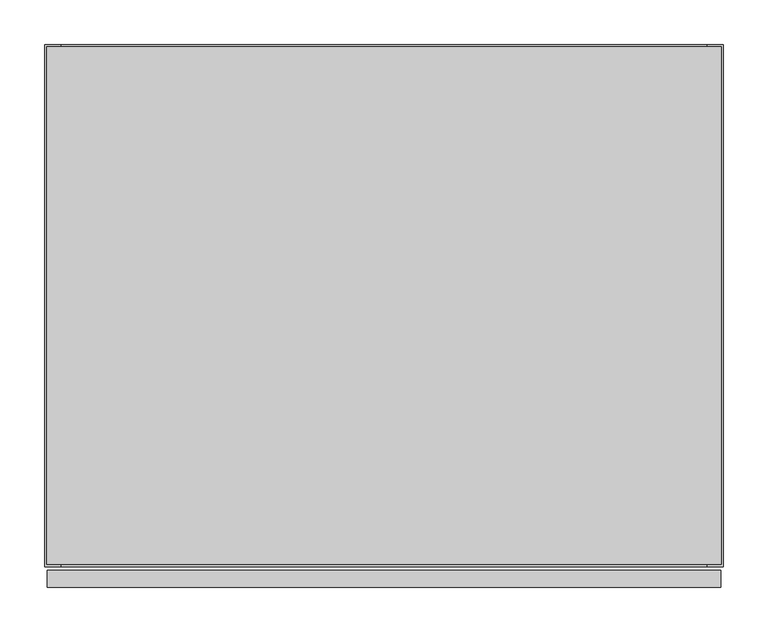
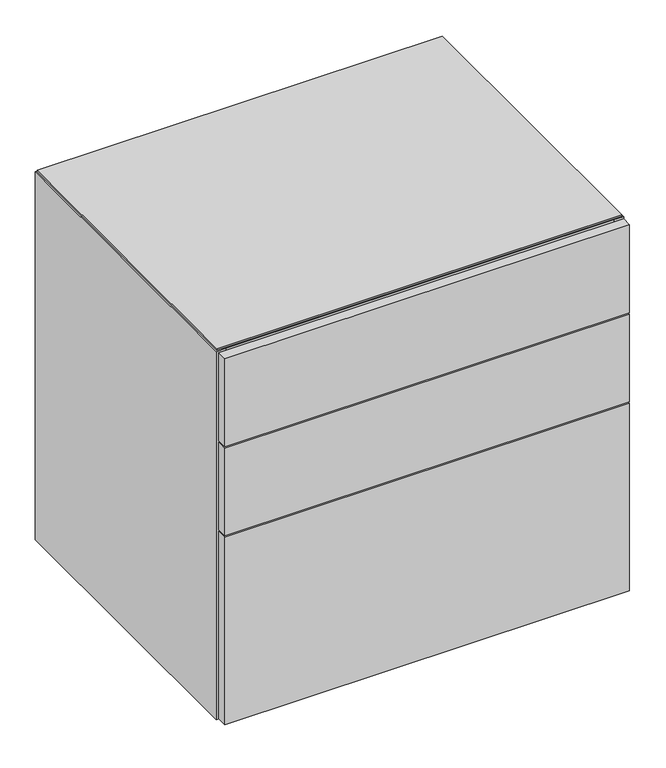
"""IFC4 building model written with IfcOpenShell, lengths in millimetres: furniture geometry, Geiger_GeigerOneCasegoods_LowStorage2Box1File : TFL 30Wx24Dx28.75H."""

from ifc_helpers import new_model, si_unit, point, frame, origin, place, context, project, spatial, polyline, circle_curve, ellipse_curve, trimmed, outline, extrude, source, transform, mapped, element, save
from ifc_brep_helpers import plane_surface, cylinder_surface, revolved_surface, advanced_brep


def furniture_9b273c3e(model_context):
    return source(origin(), model_context, "Body", "SolidModel", [
        extrude(outline(polyline([(19.0, -19.5), (743.0, -19.5), (743.0, -586.4), (19.0, -586.4), (19.0, -19.5)])), frame((0.0, 0.0, 73.2), z_axis=(0.0, 0.0, 1.0), x_axis=(1.0, 0.0, 0.0)), (0.0, 0.0, 1.0), 19.5072),
        extrude(outline(polyline([(3.0, -590.4), (759.0, -590.4), (759.0, -609.6), (3.0, -609.6), (3.0, -590.4)])), frame((0.0, 0.0, 15.7), z_axis=(0.0, 0.0, 1.0), x_axis=(1.0, 0.0, 0.0)), (0.0, 0.0, 1.0), 370.0),
        extrude(outline(polyline([(3.0, -590.4), (759.0, -590.4), (759.0, -609.6), (3.0, -609.6), (3.0, -590.4)])), frame((0.0, 0.0, 388.7), z_axis=(0.0, 0.0, 1.0), x_axis=(1.0, 0.0, 0.0)), (0.0, 0.0, 1.0), 173.0),
        extrude(outline(polyline([(3.0, -590.4), (759.0, -590.4), (759.0, -609.6), (3.0, -609.6), (3.0, -590.4)])), frame((0.0, 0.0, 564.7), z_axis=(0.0, 0.0, 1.0), x_axis=(1.0, 0.0, 0.0)), (0.0, 0.0, 1.0), 174.0),
        extrude(outline(polyline([(19.0, -19.5), (743.0, -19.5), (743.0, -566.9), (19.0, -566.9), (19.0, -19.5)])), frame((0.0, 0.0, 12.7), z_axis=(0.0, 0.0, 1.0), x_axis=(1.0, 0.0, 0.0)), (0.0, 0.0, 1.0), 19.5),
        extrude(outline(polyline([(759.46, -2.54), (759.46, -583.86), (2.54, -583.86), (2.54, -2.54), (759.46, -2.54)])), frame((0.0, 0.0, 739.5), z_axis=(0.0, 0.0, 1.0), x_axis=(1.0, 0.0, 0.0)), (0.0, 0.0, 1.0), 3.2766),
        extrude(outline(polyline([(19.0, -95.7), (743.0, -95.7), (743.0, -586.4), (19.0, -586.4), (19.0, -95.7)])), frame((0.0, 0.0, 720.0), z_axis=(0.0, 0.0, 1.0), x_axis=(1.0, 0.0, 0.0)), (0.0, 0.0, 1.0), 19.5),
        extrude(outline(polyline([(743.0, -19.5), (19.0, -19.5), (19.0, 0.0), (743.0, 0.0), (743.0, -19.5)])), frame((0.0, 0.0, 12.7), z_axis=(0.0, 0.0, 1.0), x_axis=(1.0, 0.0, 0.0)), (0.0, 0.0, 1.0), 726.8),
        extrude(outline(polyline([(19.0, -566.9), (743.0, -566.9), (743.0, -586.4), (19.0, -586.4), (19.0, -566.9)])), frame((0.0, 0.0, 12.7), z_axis=(0.0, 0.0, 1.0), x_axis=(1.0, 0.0, 0.0)), (0.0, 0.0, 1.0), 60.5),
        extrude(outline(polyline([(19.0, -586.4), (0.0, -586.4), (0.0, -0.5), (19.0, -0.5), (19.0, -586.4)])), frame((0.0, 0.0, 12.7), z_axis=(0.0, 0.0, 1.0), x_axis=(1.0, 0.0, 0.0)), (0.0, 0.0, 1.0), 726.8),
        extrude(outline(polyline([(762.0, -586.4), (743.0, -586.4), (743.0, -0.5), (762.0, -0.5), (762.0, -586.4)])), frame((0.0, 0.0, 12.7), z_axis=(0.0, 0.0, 1.0), x_axis=(1.0, 0.0, 0.0)), (0.0, 0.0, 1.0), 726.8),
        advanced_brep(
        [(94.0575663, -528.9165105, 0.0), (71.9424337, -528.9165105, 0.0), (83.0, -528.9165105, 0.0), (94.0575663, -528.9165105, 9.5), (71.9424337, -528.9165105, 9.5), (87.066455, -528.9165105, 9.5), (78.933545, -528.9165105, 9.5), (87.066455, -528.9165105, 12.7), (78.933545, -528.9165105, 12.7), (83.0, -528.9165105, 12.7)],
        [
            (0, 1, circle_curve(frame((83.0, -528.9165105, 0.0), z_axis=(0.0, 0.0, -1.0), x_axis=(-1.0, 0.0, 0.0)), 11.0575663)),
            (1, 2),
            (2, 0),
            (1, 0, circle_curve(frame((83.0, -528.9165105, 0.0), z_axis=(0.0, 0.0, -1.0), x_axis=(-1.0, 0.0, 0.0)), 11.0575663)),
            (0, 3, circle_curve(frame((94.0575663, -528.9165105, 4.75), z_axis=(0.0, -1.0, 0.0), x_axis=(1.0, 0.0, 0.0)), 4.75)),
            (3, 4, circle_curve(frame((83.0, -528.9165105, 9.5), z_axis=(0.0, 0.0, -1.0), x_axis=(-1.0, 0.0, 0.0)), 11.0575663)),
            (4, 1, circle_curve(frame((71.9424337, -528.9165105, 4.75), z_axis=(0.0, -1.0, 0.0), x_axis=(-1.0, 0.0, 0.0)), 4.75)),
            (4, 3, circle_curve(frame((83.0, -528.9165105, 9.5), z_axis=(0.0, 0.0, -1.0), x_axis=(-1.0, 0.0, 0.0)), 11.0575663)),
            (3, 5),
            (5, 6, circle_curve(frame((83.0, -528.9165105, 9.5), z_axis=(0.0, 0.0, -1.0), x_axis=(-1.0, 0.0, 0.0)), 4.066455)),
            (6, 4),
            (6, 5, circle_curve(frame((83.0, -528.9165105, 9.5), z_axis=(0.0, 0.0, -1.0), x_axis=(-1.0, 0.0, 0.0)), 4.066455)),
            (5, 7),
            (7, 8, circle_curve(frame((83.0, -528.9165105, 12.7), z_axis=(0.0, 0.0, -1.0), x_axis=(-1.0, 0.0, 0.0)), 4.066455)),
            (8, 6),
            (8, 7, circle_curve(frame((83.0, -528.9165105, 12.7), z_axis=(0.0, 0.0, -1.0), x_axis=(-1.0, 0.0, 0.0)), 4.066455)),
            (7, 9),
            (9, 8),
        ],
        [
            plane_surface(frame((83.0, -528.9165105, 0.0), z_axis=(0.0, 0.0, -1.0), x_axis=(-1.0, 0.0, 0.0))),
            revolved_surface(trimmed(ellipse_curve(frame((71.9424337, -528.9165105, 4.75), z_axis=(0.0, 1.0, 0.0), x_axis=(-1.0, 0.0, 0.0)), 4.75, 4.75), [point((71.9424337, -528.9165105, 0.0))], [point((71.9424337, -528.9165105, 9.5))], True, "CARTESIAN"), (83.0, -528.9165105, 0.0), (0.0, 0.0, 1.0)),
            plane_surface(frame((83.0, -528.9165105, 9.5), z_axis=(0.0, 0.0, 1.0), x_axis=(-1.0, 0.0, 0.0))),
            cylinder_surface(frame((83.0, -528.9165105, 0.0), z_axis=(0.0, 0.0, 1.0), x_axis=(-1.0, 0.0, 0.0)), 4.066455),
            plane_surface(frame((83.0, -528.9165105, 12.7), z_axis=(0.0, 0.0, 1.0), x_axis=(-1.0, 0.0, 0.0))),
        ],
        [
            (0, [[1, 2, 3]]),
            (0, [[-2, 4, -3]]),
            (1, [[-1, 5, 6, 7]]),
            (1, [[-4, -7, 8, -5]]),
            (2, [[-6, 9, 10, 11]]),
            (2, [[-8, -11, 12, -9]]),
            (3, [[-10, 13, 14, 15]]),
            (3, [[-12, -15, 16, -13]]),
            (4, [[-14, 17, 18]]),
            (4, [[-16, -18, -17]]),
        ],
    ),
        advanced_brep(
        [(94.0575663, -127.0, 0.0), (71.9424337, -127.0, 0.0), (83.0, -127.0, 0.0), (94.0575663, -127.0, 9.5), (71.9424337, -127.0, 9.5), (87.066455, -127.0, 9.5), (78.933545, -127.0, 9.5), (87.066455, -127.0, 12.7), (78.933545, -127.0, 12.7), (83.0, -127.0, 12.7)],
        [
            (0, 1, circle_curve(frame((83.0, -127.0, 0.0), z_axis=(0.0, 0.0, -1.0), x_axis=(-1.0, 0.0, 0.0)), 11.0575663)),
            (1, 2),
            (2, 0),
            (1, 0, circle_curve(frame((83.0, -127.0, 0.0), z_axis=(0.0, 0.0, -1.0), x_axis=(-1.0, 0.0, 0.0)), 11.0575663)),
            (0, 3, circle_curve(frame((94.0575663, -127.0, 4.75), z_axis=(0.0, -1.0, 0.0), x_axis=(1.0, 0.0, 0.0)), 4.75)),
            (3, 4, circle_curve(frame((83.0, -127.0, 9.5), z_axis=(0.0, 0.0, -1.0), x_axis=(-1.0, 0.0, 0.0)), 11.0575663)),
            (4, 1, circle_curve(frame((71.9424337, -127.0, 4.75), z_axis=(0.0, -1.0, 0.0), x_axis=(-1.0, 0.0, 0.0)), 4.75)),
            (4, 3, circle_curve(frame((83.0, -127.0, 9.5), z_axis=(0.0, 0.0, -1.0), x_axis=(-1.0, 0.0, 0.0)), 11.0575663)),
            (3, 5),
            (5, 6, circle_curve(frame((83.0, -127.0, 9.5), z_axis=(0.0, 0.0, -1.0), x_axis=(-1.0, 0.0, 0.0)), 4.066455)),
            (6, 4),
            (6, 5, circle_curve(frame((83.0, -127.0, 9.5), z_axis=(0.0, 0.0, -1.0), x_axis=(-1.0, 0.0, 0.0)), 4.066455)),
            (5, 7),
            (7, 8, circle_curve(frame((83.0, -127.0, 12.7), z_axis=(0.0, 0.0, -1.0), x_axis=(-1.0, 0.0, 0.0)), 4.066455)),
            (8, 6),
            (8, 7, circle_curve(frame((83.0, -127.0, 12.7), z_axis=(0.0, 0.0, -1.0), x_axis=(-1.0, 0.0, 0.0)), 4.066455)),
            (7, 9),
            (9, 8),
        ],
        [
            plane_surface(frame((83.0, -127.0, 0.0), z_axis=(0.0, 0.0, -1.0), x_axis=(-1.0, 0.0, 0.0))),
            revolved_surface(trimmed(ellipse_curve(frame((71.9424337, -127.0, 4.75), z_axis=(0.0, 1.0, 0.0), x_axis=(-1.0, 0.0, 0.0)), 4.75, 4.75), [point((71.9424337, -127.0, 0.0))], [point((71.9424337, -127.0, 9.5))], True, "CARTESIAN"), (83.0, -127.0, 0.0), (0.0, 0.0, 1.0)),
            plane_surface(frame((83.0, -127.0, 9.5), z_axis=(0.0, 0.0, 1.0), x_axis=(-1.0, 0.0, 0.0))),
            cylinder_surface(frame((83.0, -127.0, 0.0), z_axis=(0.0, 0.0, 1.0), x_axis=(-1.0, 0.0, 0.0)), 4.066455),
            plane_surface(frame((83.0, -127.0, 12.7), z_axis=(0.0, 0.0, 1.0), x_axis=(-1.0, 0.0, 0.0))),
        ],
        [
            (0, [[1, 2, 3]]),
            (0, [[-2, 4, -3]]),
            (1, [[-1, 5, 6, 7]]),
            (1, [[-4, -7, 8, -5]]),
            (2, [[-6, 9, 10, 11]]),
            (2, [[-8, -11, 12, -9]]),
            (3, [[-10, 13, 14, 15]]),
            (3, [[-12, -15, 16, -13]]),
            (4, [[-14, 17, 18]]),
            (4, [[-16, -18, -17]]),
        ],
    ),
        advanced_brep(
        [(679.0, -528.9165105, 0.0), (690.0575663, -528.9165105, 0.0), (667.9424337, -528.9165105, 0.0), (690.0575663, -528.9165105, 9.5), (667.9424337, -528.9165105, 9.5), (683.066455, -528.9165105, 9.5), (674.933545, -528.9165105, 9.5), (683.066455, -528.9165105, 12.7), (674.933545, -528.9165105, 12.7), (679.0, -528.9165105, 12.7)],
        [
            (0, 1),
            (1, 2, circle_curve(frame((679.0, -528.9165105, 0.0), z_axis=(0.0, 0.0, -1.0), x_axis=(1.0, 0.0, 0.0)), 11.0575663)),
            (2, 0),
            (2, 1, circle_curve(frame((679.0, -528.9165105, 0.0), z_axis=(0.0, 0.0, -1.0), x_axis=(1.0, 0.0, 0.0)), 11.0575663)),
            (1, 3, circle_curve(frame((690.0575663, -528.9165105, 4.75), z_axis=(0.0, -1.0, 0.0), x_axis=(-1.0, 0.0, 0.0)), 4.75)),
            (3, 4, circle_curve(frame((679.0, -528.9165105, 9.5), z_axis=(0.0, 0.0, -1.0), x_axis=(1.0, 0.0, 0.0)), 11.0575663)),
            (4, 2, circle_curve(frame((667.9424337, -528.9165105, 4.75), z_axis=(0.0, -1.0, 0.0), x_axis=(1.0, 0.0, 0.0)), 4.75)),
            (4, 3, circle_curve(frame((679.0, -528.9165105, 9.5), z_axis=(0.0, 0.0, -1.0), x_axis=(1.0, 0.0, 0.0)), 11.0575663)),
            (3, 5),
            (5, 6, circle_curve(frame((679.0, -528.9165105, 9.5), z_axis=(0.0, 0.0, -1.0), x_axis=(1.0, 0.0, 0.0)), 4.066455)),
            (6, 4),
            (6, 5, circle_curve(frame((679.0, -528.9165105, 9.5), z_axis=(0.0, 0.0, -1.0), x_axis=(1.0, 0.0, 0.0)), 4.066455)),
            (5, 7),
            (7, 8, circle_curve(frame((679.0, -528.9165105, 12.7), z_axis=(0.0, 0.0, -1.0), x_axis=(1.0, 0.0, 0.0)), 4.066455)),
            (8, 6),
            (8, 7, circle_curve(frame((679.0, -528.9165105, 12.7), z_axis=(0.0, 0.0, -1.0), x_axis=(1.0, 0.0, 0.0)), 4.066455)),
            (7, 9),
            (9, 8),
        ],
        [
            plane_surface(frame((679.0, -528.9165105, 0.0), z_axis=(0.0, 0.0, -1.0), x_axis=(1.0, 0.0, 0.0))),
            revolved_surface(trimmed(ellipse_curve(frame((690.0575663, -528.9165105, 4.75), z_axis=(0.0, 1.0, 0.0), x_axis=(-1.0, 0.0, 0.0)), 4.75, 4.75), [point((690.0575663, -528.9165105, 9.5))], [point((690.0575663, -528.9165105, 0.0))], True, "CARTESIAN"), (679.0, -528.9165105, 0.0), (0.0, 0.0, -1.0)),
            plane_surface(frame((679.0, -528.9165105, 9.5), z_axis=(0.0, 0.0, 1.0), x_axis=(1.0, 0.0, 0.0))),
            cylinder_surface(frame((679.0, -528.9165105, 0.0), z_axis=(0.0, 0.0, -1.0), x_axis=(1.0, 0.0, 0.0)), 4.066455),
            plane_surface(frame((679.0, -528.9165105, 12.7), z_axis=(0.0, 0.0, 1.0), x_axis=(1.0, 0.0, 0.0))),
        ],
        [
            (0, [[1, 2, 3]]),
            (0, [[-1, -3, 4]]),
            (1, [[-2, 5, 6, 7]]),
            (1, [[-4, -7, 8, -5]]),
            (2, [[-6, 9, 10, 11]]),
            (2, [[-8, -11, 12, -9]]),
            (3, [[-10, 13, 14, 15]]),
            (3, [[-12, -15, 16, -13]]),
            (4, [[-14, 17, 18]]),
            (4, [[-16, -18, -17]]),
        ],
    ),
        advanced_brep(
        [(679.0, -127.0, 0.0), (690.0575663, -127.0, 0.0), (667.9424337, -127.0, 0.0), (690.0575663, -127.0, 9.5), (667.9424337, -127.0, 9.5), (683.066455, -127.0, 9.5), (674.933545, -127.0, 9.5), (683.066455, -127.0, 12.7), (674.933545, -127.0, 12.7), (679.0, -127.0, 12.7)],
        [
            (0, 1),
            (1, 2, circle_curve(frame((679.0, -127.0, 0.0), z_axis=(0.0, 0.0, -1.0), x_axis=(1.0, 0.0, 0.0)), 11.0575663)),
            (2, 0),
            (2, 1, circle_curve(frame((679.0, -127.0, 0.0), z_axis=(0.0, 0.0, -1.0), x_axis=(1.0, 0.0, 0.0)), 11.0575663)),
            (1, 3, circle_curve(frame((690.0575663, -127.0, 4.75), z_axis=(0.0, -1.0, 0.0), x_axis=(-1.0, 0.0, 0.0)), 4.75)),
            (3, 4, circle_curve(frame((679.0, -127.0, 9.5), z_axis=(0.0, 0.0, -1.0), x_axis=(1.0, 0.0, 0.0)), 11.0575663)),
            (4, 2, circle_curve(frame((667.9424337, -127.0, 4.75), z_axis=(0.0, -1.0, 0.0), x_axis=(1.0, 0.0, 0.0)), 4.75)),
            (4, 3, circle_curve(frame((679.0, -127.0, 9.5), z_axis=(0.0, 0.0, -1.0), x_axis=(1.0, 0.0, 0.0)), 11.0575663)),
            (3, 5),
            (5, 6, circle_curve(frame((679.0, -127.0, 9.5), z_axis=(0.0, 0.0, -1.0), x_axis=(1.0, 0.0, 0.0)), 4.066455)),
            (6, 4),
            (6, 5, circle_curve(frame((679.0, -127.0, 9.5), z_axis=(0.0, 0.0, -1.0), x_axis=(1.0, 0.0, 0.0)), 4.066455)),
            (5, 7),
            (7, 8, circle_curve(frame((679.0, -127.0, 12.7), z_axis=(0.0, 0.0, -1.0), x_axis=(1.0, 0.0, 0.0)), 4.066455)),
            (8, 6),
            (8, 7, circle_curve(frame((679.0, -127.0, 12.7), z_axis=(0.0, 0.0, -1.0), x_axis=(1.0, 0.0, 0.0)), 4.066455)),
            (7, 9),
            (9, 8),
        ],
        [
            plane_surface(frame((679.0, -127.0, 0.0), z_axis=(0.0, 0.0, -1.0), x_axis=(1.0, 0.0, 0.0))),
            revolved_surface(trimmed(ellipse_curve(frame((690.0575663, -127.0, 4.75), z_axis=(0.0, 1.0, 0.0), x_axis=(-1.0, 0.0, 0.0)), 4.75, 4.75), [point((690.0575663, -127.0, 9.5))], [point((690.0575663, -127.0, 0.0))], True, "CARTESIAN"), (679.0, -127.0, 0.0), (0.0, 0.0, -1.0)),
            plane_surface(frame((679.0, -127.0, 9.5), z_axis=(0.0, 0.0, 1.0), x_axis=(1.0, 0.0, 0.0))),
            cylinder_surface(frame((679.0, -127.0, 0.0), z_axis=(0.0, 0.0, -1.0), x_axis=(1.0, 0.0, 0.0)), 4.066455),
            plane_surface(frame((679.0, -127.0, 12.7), z_axis=(0.0, 0.0, 1.0), x_axis=(1.0, 0.0, 0.0))),
        ],
        [
            (0, [[1, 2, 3]]),
            (0, [[-1, -3, 4]]),
            (1, [[-2, 5, 6, 7]]),
            (1, [[-4, -7, 8, -5]]),
            (2, [[-6, 9, 10, 11]]),
            (2, [[-8, -11, 12, -9]]),
            (3, [[-10, 13, 14, 15]]),
            (3, [[-12, -15, 16, -13]]),
            (4, [[-14, 17, 18]]),
            (4, [[-16, -18, -17]]),
        ],
    ),
    ])


if __name__ == "__main__":
    model = new_model("IFC4")
    model_context = context("Model", 3, world=origin())
    ifc_project = project(units=[si_unit("LENGTHUNIT", "METRE", prefix="MILLI")], contexts=[model_context])
    site = spatial("IfcSite", under=ifc_project)
    building = spatial("IfcBuilding", under=site)
    placement = place(None, origin())
    furniture_shape = furniture_9b273c3e(model_context)
    element("IfcFurniture", 1, ObjectType="Geiger_GeigerOneCasegoods_LowStorage2Box1File : TFL 30Wx24Dx28.75H", at=placement, inside=building, context=model_context, shape_type="MappedRepresentation", body=[
        mapped(furniture_shape, transform((0.0, 0.0, 0.0), x_axis=(1.0, 0.0, 0.0), y_axis=(0.0, 1.0, 0.0), z_axis=(0.0, 0.0, 1.0))),
    ])
    save(model, "model.ifc")
